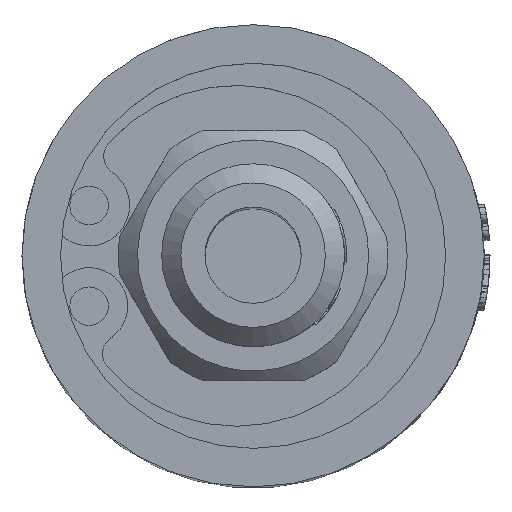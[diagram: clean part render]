
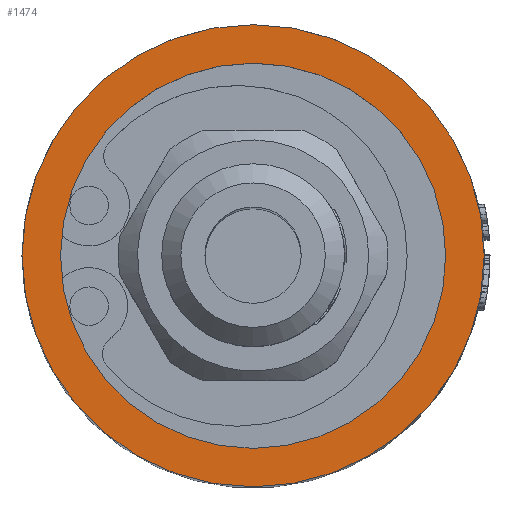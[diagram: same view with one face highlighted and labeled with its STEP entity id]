
A CAD part, top view. The second image highlights one B-rep face of the part: STEP entity #1474.
In plain terms, the highlighted planar face has unit normal (0, 0, 1).
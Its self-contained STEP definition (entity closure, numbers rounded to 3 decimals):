
#203=FACE_BOUND('',#4151,.T.);
#204=FACE_BOUND('',#4152,.T.);
#458=CIRCLE('',#21733,10.);
#464=CIRCLE('',#21745,12.);
#1474=ADVANCED_FACE('',(#203,#204),#2513,.T.);
#2513=PLANE('',#21746);
#4151=EDGE_LOOP('',(#7760));
#4152=EDGE_LOOP('',(#7761));
#7760=ORIENTED_EDGE('',*,*,#15845,.T.);
#7761=ORIENTED_EDGE('',*,*,#15859,.F.);
#13471=VERTEX_POINT('',#28397);
#13480=VERTEX_POINT('',#28426);
#15845=EDGE_CURVE('',#13471,#13471,#458,.T.);
#15859=EDGE_CURVE('',#13480,#13480,#464,.T.);
#21733=AXIS2_PLACEMENT_3D('',#28396,#22920,#22921);
#21745=AXIS2_PLACEMENT_3D('',#28425,#22952,#22953);
#21746=AXIS2_PLACEMENT_3D('',#28427,#22954,#22955);
#22920=DIRECTION('',(0.,0.,-1.));
#22921=DIRECTION('',(0.,1.,0.));
#22952=DIRECTION('',(0.,0.,-1.));
#22953=DIRECTION('',(0.,1.,0.));
#22954=DIRECTION('',(0.,0.,1.));
#22955=DIRECTION('',(0.,1.,0.));
#28396=CARTESIAN_POINT('',(0.,0.,39.));
#28397=CARTESIAN_POINT('',(0.,10.,39.));
#28425=CARTESIAN_POINT('',(0.,0.,39.));
#28426=CARTESIAN_POINT('',(0.,12.,39.));
#28427=CARTESIAN_POINT('',(0.,0.,39.));
